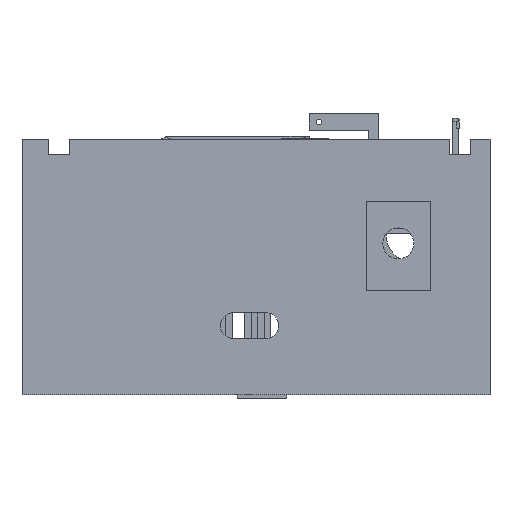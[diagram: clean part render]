
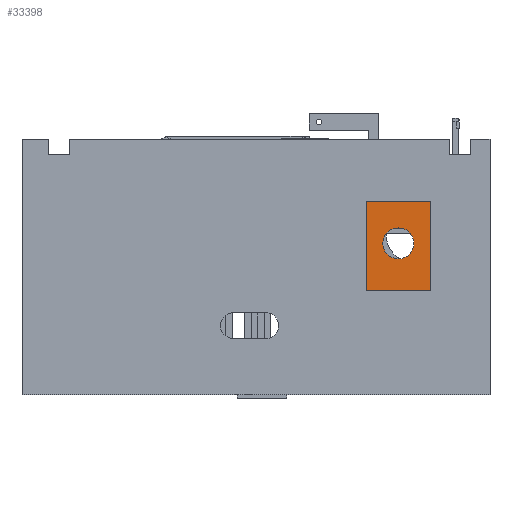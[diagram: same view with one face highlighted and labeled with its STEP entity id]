
A CAD part, front view. The second image highlights one B-rep face of the part: STEP entity #33398.
In plain terms, the highlighted planar face has unit normal (0, -1, 0).
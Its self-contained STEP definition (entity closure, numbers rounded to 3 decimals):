
#3754 = PLANE('',#3755);
#3755 = AXIS2_PLACEMENT_3D('',#3756,#3757,#3758);
#3756 = CARTESIAN_POINT('',(159.,-103.,82.));
#3757 = DIRECTION('',(1.,0.,0.));
#3758 = DIRECTION('',(0.,0.,1.));
#3808 = PLANE('',#3809);
#3809 = AXIS2_PLACEMENT_3D('',#3810,#3811,#3812);
#3810 = CARTESIAN_POINT('',(185.,-103.,82.));
#3811 = DIRECTION('',(1.,0.,0.));
#3812 = DIRECTION('',(0.,0.,1.));
#4850 = PLANE('',#4851);
#4851 = AXIS2_PLACEMENT_3D('',#4852,#4853,#4854);
#4852 = CARTESIAN_POINT('',(172.,-99.664,118.));
#4853 = DIRECTION('',(0.,0.,1.));
#4854 = DIRECTION('',(1.,0.,0.));
#4904 = PLANE('',#4905);
#4905 = AXIS2_PLACEMENT_3D('',#4906,#4907,#4908);
#4906 = CARTESIAN_POINT('',(172.,-99.664,82.));
#4907 = DIRECTION('',(-0.,-0.,-1.));
#4908 = DIRECTION('',(-1.,0.,0.));
#14490 = VERTEX_POINT('',#14491);
#14491 = CARTESIAN_POINT('',(159.,-100.5,82.));
#14512 = EDGE_CURVE('',#14513,#14490,#14515,.T.);
#14513 = VERTEX_POINT('',#14514);
#14514 = CARTESIAN_POINT('',(159.,-100.5,118.));
#14515 = SURFACE_CURVE('',#14516,(#14520,#14526),.PCURVE_S1.);
#14516 = LINE('',#14517,#14518);
#14517 = CARTESIAN_POINT('',(159.,-100.5,82.));
#14518 = VECTOR('',#14519,1.);
#14519 = DIRECTION('',(0.,0.,-1.));
#14520 = PCURVE('',#3754,#14521);
#14521 = DEFINITIONAL_REPRESENTATION('',(#14522),#14525);
#14522 = B_SPLINE_CURVE_WITH_KNOTS('',1,(#14523,#14524),.UNSPECIFIED.,
  .F.,.F.,(2,2),(-36.,-0.),.PIECEWISE_BEZIER_KNOTS.);
#14523 = CARTESIAN_POINT('',(36.,-2.5));
#14524 = CARTESIAN_POINT('',(0.,-2.5));
#14525 = ( GEOMETRIC_REPRESENTATION_CONTEXT(2) 
PARAMETRIC_REPRESENTATION_CONTEXT() REPRESENTATION_CONTEXT('2D SPACE',''
  ) );
#14526 = PCURVE('',#14527,#14532);
#14527 = PLANE('',#14528);
#14528 = AXIS2_PLACEMENT_3D('',#14529,#14530,#14531);
#14529 = CARTESIAN_POINT('',(155.,-100.5,82.));
#14530 = DIRECTION('',(0.,1.,0.));
#14531 = DIRECTION('',(0.,0.,1.));
#14532 = DEFINITIONAL_REPRESENTATION('',(#14533),#14536);
#14533 = B_SPLINE_CURVE_WITH_KNOTS('',1,(#14534,#14535),.UNSPECIFIED.,
  .F.,.F.,(2,2),(-36.,-0.),.PIECEWISE_BEZIER_KNOTS.);
#14534 = CARTESIAN_POINT('',(36.,4.));
#14535 = CARTESIAN_POINT('',(0.,4.));
#14536 = ( GEOMETRIC_REPRESENTATION_CONTEXT(2) 
PARAMETRIC_REPRESENTATION_CONTEXT() REPRESENTATION_CONTEXT('2D SPACE',''
  ) );
#14620 = VERTEX_POINT('',#14621);
#14621 = CARTESIAN_POINT('',(185.,-100.5,82.));
#14642 = EDGE_CURVE('',#14643,#14620,#14645,.T.);
#14643 = VERTEX_POINT('',#14644);
#14644 = CARTESIAN_POINT('',(185.,-100.5,118.));
#14645 = SURFACE_CURVE('',#14646,(#14650,#14656),.PCURVE_S1.);
#14646 = LINE('',#14647,#14648);
#14647 = CARTESIAN_POINT('',(185.,-100.5,82.));
#14648 = VECTOR('',#14649,1.);
#14649 = DIRECTION('',(0.,0.,-1.));
#14650 = PCURVE('',#3808,#14651);
#14651 = DEFINITIONAL_REPRESENTATION('',(#14652),#14655);
#14652 = B_SPLINE_CURVE_WITH_KNOTS('',1,(#14653,#14654),.UNSPECIFIED.,
  .F.,.F.,(2,2),(-36.,-0.),.PIECEWISE_BEZIER_KNOTS.);
#14653 = CARTESIAN_POINT('',(36.,-2.5));
#14654 = CARTESIAN_POINT('',(0.,-2.5));
#14655 = ( GEOMETRIC_REPRESENTATION_CONTEXT(2) 
PARAMETRIC_REPRESENTATION_CONTEXT() REPRESENTATION_CONTEXT('2D SPACE',''
  ) );
#14656 = PCURVE('',#14527,#14657);
#14657 = DEFINITIONAL_REPRESENTATION('',(#14658),#14661);
#14658 = B_SPLINE_CURVE_WITH_KNOTS('',1,(#14659,#14660),.UNSPECIFIED.,
  .F.,.F.,(2,2),(-36.,-0.),.PIECEWISE_BEZIER_KNOTS.);
#14659 = CARTESIAN_POINT('',(36.,30.));
#14660 = CARTESIAN_POINT('',(0.,30.));
#14661 = ( GEOMETRIC_REPRESENTATION_CONTEXT(2) 
PARAMETRIC_REPRESENTATION_CONTEXT() REPRESENTATION_CONTEXT('2D SPACE',''
  ) );
#15831 = EDGE_CURVE('',#14513,#14643,#15832,.T.);
#15832 = SURFACE_CURVE('',#15833,(#15837,#15844),.PCURVE_S1.);
#15833 = LINE('',#15834,#15835);
#15834 = CARTESIAN_POINT('',(155.,-100.5,118.));
#15835 = VECTOR('',#15836,1.);
#15836 = DIRECTION('',(1.,0.,0.));
#15837 = PCURVE('',#4850,#15838);
#15838 = DEFINITIONAL_REPRESENTATION('',(#15839),#15843);
#15839 = LINE('',#15840,#15841);
#15840 = CARTESIAN_POINT('',(-17.,-0.836));
#15841 = VECTOR('',#15842,1.);
#15842 = DIRECTION('',(1.,0.));
#15843 = ( GEOMETRIC_REPRESENTATION_CONTEXT(2) 
PARAMETRIC_REPRESENTATION_CONTEXT() REPRESENTATION_CONTEXT('2D SPACE',''
  ) );
#15844 = PCURVE('',#14527,#15845);
#15845 = DEFINITIONAL_REPRESENTATION('',(#15846),#15850);
#15846 = LINE('',#15847,#15848);
#15847 = CARTESIAN_POINT('',(36.,0.));
#15848 = VECTOR('',#15849,1.);
#15849 = DIRECTION('',(0.,1.));
#15850 = ( GEOMETRIC_REPRESENTATION_CONTEXT(2) 
PARAMETRIC_REPRESENTATION_CONTEXT() REPRESENTATION_CONTEXT('2D SPACE',''
  ) );
#16025 = EDGE_CURVE('',#14490,#14620,#16026,.T.);
#16026 = SURFACE_CURVE('',#16027,(#16031,#16038),.PCURVE_S1.);
#16027 = LINE('',#16028,#16029);
#16028 = CARTESIAN_POINT('',(155.,-100.5,82.));
#16029 = VECTOR('',#16030,1.);
#16030 = DIRECTION('',(1.,0.,0.));
#16031 = PCURVE('',#4904,#16032);
#16032 = DEFINITIONAL_REPRESENTATION('',(#16033),#16037);
#16033 = LINE('',#16034,#16035);
#16034 = CARTESIAN_POINT('',(17.,-0.836));
#16035 = VECTOR('',#16036,1.);
#16036 = DIRECTION('',(-1.,0.));
#16037 = ( GEOMETRIC_REPRESENTATION_CONTEXT(2) 
PARAMETRIC_REPRESENTATION_CONTEXT() REPRESENTATION_CONTEXT('2D SPACE',''
  ) );
#16038 = PCURVE('',#14527,#16039);
#16039 = DEFINITIONAL_REPRESENTATION('',(#16040),#16044);
#16040 = LINE('',#16041,#16042);
#16041 = CARTESIAN_POINT('',(0.,0.));
#16042 = VECTOR('',#16043,1.);
#16043 = DIRECTION('',(0.,1.));
#16044 = ( GEOMETRIC_REPRESENTATION_CONTEXT(2) 
PARAMETRIC_REPRESENTATION_CONTEXT() REPRESENTATION_CONTEXT('2D SPACE',''
  ) );
#33398 = ADVANCED_FACE('',(#33399,#33405),#14527,.F.);
#33399 = FACE_BOUND('',#33400,.F.);
#33400 = EDGE_LOOP('',(#33401,#33402,#33403,#33404));
#33401 = ORIENTED_EDGE('',*,*,#16025,.F.);
#33402 = ORIENTED_EDGE('',*,*,#14512,.F.);
#33403 = ORIENTED_EDGE('',*,*,#15831,.T.);
#33404 = ORIENTED_EDGE('',*,*,#14642,.T.);
#33405 = FACE_BOUND('',#33406,.F.);
#33406 = EDGE_LOOP('',(#33407));
#33407 = ORIENTED_EDGE('',*,*,#33408,.F.);
#33408 = EDGE_CURVE('',#33409,#33409,#33411,.T.);
#33409 = VERTEX_POINT('',#33410);
#33410 = CARTESIAN_POINT('',(172.,-100.5,107.25));
#33411 = SURFACE_CURVE('',#33412,(#33417,#33424),.PCURVE_S1.);
#33412 = CIRCLE('',#33413,6.25);
#33413 = AXIS2_PLACEMENT_3D('',#33414,#33415,#33416);
#33414 = CARTESIAN_POINT('',(172.,-100.5,101.));
#33415 = DIRECTION('',(0.,1.,0.));
#33416 = DIRECTION('',(0.,0.,1.));
#33417 = PCURVE('',#14527,#33418);
#33418 = DEFINITIONAL_REPRESENTATION('',(#33419),#33423);
#33419 = CIRCLE('',#33420,6.25);
#33420 = AXIS2_PLACEMENT_2D('',#33421,#33422);
#33421 = CARTESIAN_POINT('',(19.,17.));
#33422 = DIRECTION('',(1.,0.));
#33423 = ( GEOMETRIC_REPRESENTATION_CONTEXT(2) 
PARAMETRIC_REPRESENTATION_CONTEXT() REPRESENTATION_CONTEXT('2D SPACE',''
  ) );
#33424 = PCURVE('',#33425,#33430);
#33425 = CYLINDRICAL_SURFACE('',#33426,6.25);
#33426 = AXIS2_PLACEMENT_3D('',#33427,#33428,#33429);
#33427 = CARTESIAN_POINT('',(172.,-101.,101.));
#33428 = DIRECTION('',(0.,1.,0.));
#33429 = DIRECTION('',(0.,0.,1.));
#33430 = DEFINITIONAL_REPRESENTATION('',(#33431),#33435);
#33431 = LINE('',#33432,#33433);
#33432 = CARTESIAN_POINT('',(0.,0.5));
#33433 = VECTOR('',#33434,1.);
#33434 = DIRECTION('',(1.,0.));
#33435 = ( GEOMETRIC_REPRESENTATION_CONTEXT(2) 
PARAMETRIC_REPRESENTATION_CONTEXT() REPRESENTATION_CONTEXT('2D SPACE',''
  ) );
